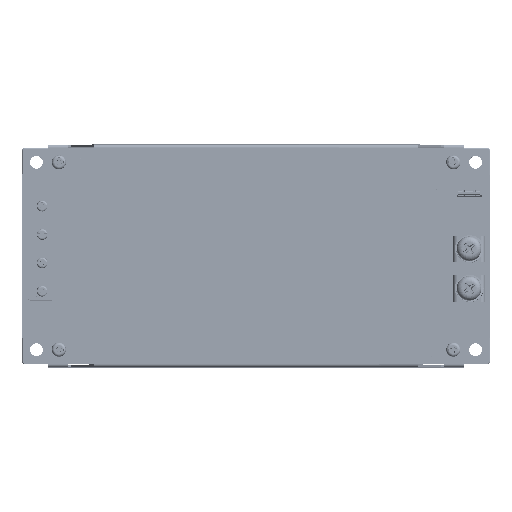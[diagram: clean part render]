
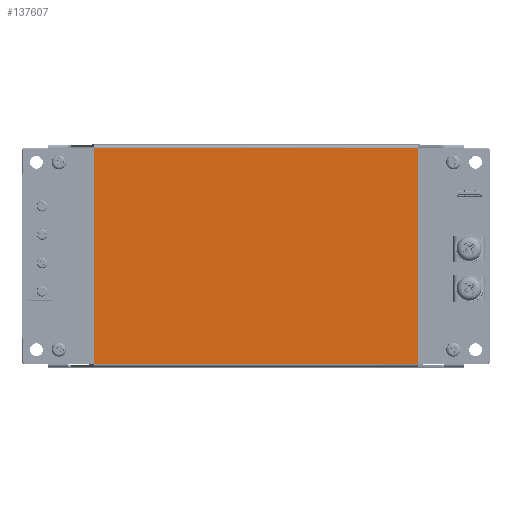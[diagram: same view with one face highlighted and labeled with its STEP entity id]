
A CAD part, top view. The second image highlights one B-rep face of the part: STEP entity #137607.
In plain terms, the highlighted planar face has unit normal (0, 0, 1).
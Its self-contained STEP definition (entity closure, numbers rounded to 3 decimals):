
#864 = CARTESIAN_POINT ( 'NONE',  ( -69.423, -23.075, 21.8 ) ) ;
#4322 = VERTEX_POINT ( 'NONE', #149487 ) ;
#17455 = DIRECTION ( 'NONE',  ( 0., -1., 0. ) ) ;
#25033 = VECTOR ( 'NONE', #185504, 1000. ) ;
#34832 = EDGE_CURVE ( 'NONE', #4322, #146753, #75816, .T. ) ;
#35913 = PLANE ( 'NONE',  #100328 ) ;
#36225 = LINE ( 'NONE', #53665, #121483 ) ;
#42028 = EDGE_CURVE ( 'NONE', #153738, #146753, #36225, .T. ) ;
#43522 = DIRECTION ( 'NONE',  ( 1., 0., 0. ) ) ;
#51790 = ORIENTED_EDGE ( 'NONE', *, *, #34832, .F. ) ;
#53665 = CARTESIAN_POINT ( 'NONE',  ( 44.866, 53.285, 21.8 ) ) ;
#56659 = EDGE_CURVE ( 'NONE', #88841, #153738, #60644, .T. ) ;
#58538 = CARTESIAN_POINT ( 'NONE',  ( 44.777, 53.285, 21.8 ) ) ;
#60077 = EDGE_LOOP ( 'NONE', ( #126016, #61144, #51790, #106732 ) ) ;
#60644 = LINE ( 'NONE', #137498, #165116 ) ;
#61144 = ORIENTED_EDGE ( 'NONE', *, *, #42028, .T. ) ;
#62176 = FACE_OUTER_BOUND ( 'NONE', #60077, .T. ) ;
#75816 = LINE ( 'NONE', #864, #25033 ) ;
#81602 = LINE ( 'NONE', #118388, #188639 ) ;
#88841 = VERTEX_POINT ( 'NONE', #186378 ) ;
#91377 = CARTESIAN_POINT ( 'NONE',  ( -69.423, -23.075, 21.8 ) ) ;
#100328 = AXIS2_PLACEMENT_3D ( 'NONE', #91377, #137093, #17455 ) ;
#103437 = DIRECTION ( 'NONE',  ( 0., 1., 0. ) ) ;
#106732 = ORIENTED_EDGE ( 'NONE', *, *, #145388, .T. ) ;
#118388 = CARTESIAN_POINT ( 'NONE',  ( -69.513, -22.875, 21.8 ) ) ;
#121483 = VECTOR ( 'NONE', #172352, 1000. ) ;
#126016 = ORIENTED_EDGE ( 'NONE', *, *, #56659, .T. ) ;
#137093 = DIRECTION ( 'NONE',  ( 0., 0., 1. ) ) ;
#137498 = CARTESIAN_POINT ( 'NONE',  ( 44.777, -23.075, 21.8 ) ) ;
#137607 = ADVANCED_FACE ( 'NONE', ( #62176 ), #35913, .T. ) ;
#145388 = EDGE_CURVE ( 'NONE', #4322, #88841, #81602, .T. ) ;
#146753 = VERTEX_POINT ( 'NONE', #153119 ) ;
#149487 = CARTESIAN_POINT ( 'NONE',  ( -69.423, -22.875, 21.8 ) ) ;
#153119 = CARTESIAN_POINT ( 'NONE',  ( -69.423, 53.285, 21.8 ) ) ;
#153738 = VERTEX_POINT ( 'NONE', #58538 ) ;
#165116 = VECTOR ( 'NONE', #103437, 1000. ) ;
#172352 = DIRECTION ( 'NONE',  ( -1., 0., 0. ) ) ;
#185504 = DIRECTION ( 'NONE',  ( 0., 1., 0. ) ) ;
#186378 = CARTESIAN_POINT ( 'NONE',  ( 44.777, -22.875, 21.8 ) ) ;
#188639 = VECTOR ( 'NONE', #43522, 1000. ) ;
